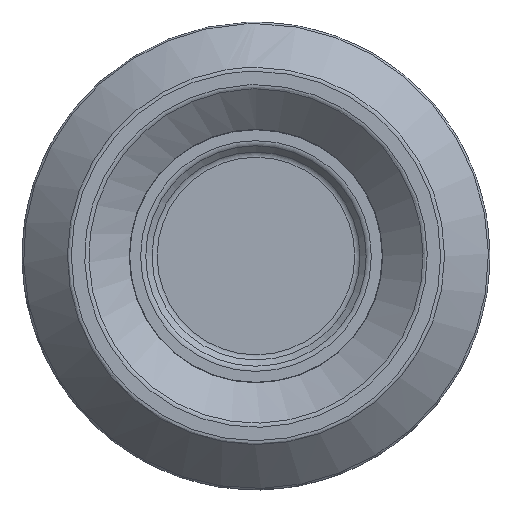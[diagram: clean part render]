
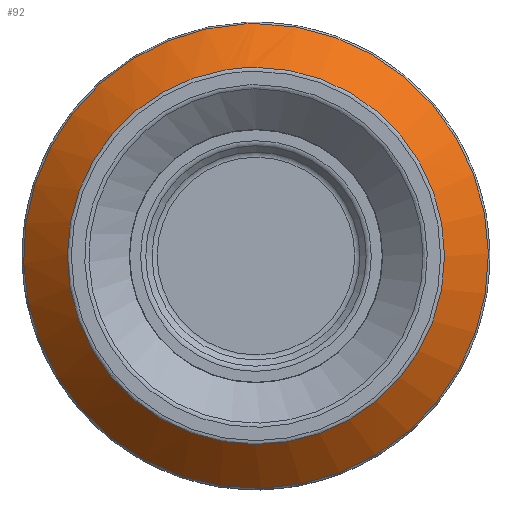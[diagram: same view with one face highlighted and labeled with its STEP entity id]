
A CAD part, left-side view. The second image highlights one B-rep face of the part: STEP entity #92.
In plain terms, the highlighted face is a revolution surface.
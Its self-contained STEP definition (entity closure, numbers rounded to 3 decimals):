
#47=SURFACE_OF_REVOLUTION('',#61,#55);
#55=AXIS1_PLACEMENT('',#474,#392);
#61=LINE('',#473,#65);
#65=VECTOR('',#391,9.13);
#92=ADVANCED_FACE('',(#126,#127),#47,.T.);
#126=FACE_BOUND('',#167,.T.);
#127=FACE_BOUND('',#168,.T.);
#167=EDGE_LOOP('',(#209));
#168=EDGE_LOOP('',(#210));
#209=ORIENTED_EDGE('',*,*,#262,.F.);
#210=ORIENTED_EDGE('',*,*,#261,.T.);
#240=VERTEX_POINT('',#468);
#241=VERTEX_POINT('',#472);
#261=EDGE_CURVE('',#240,#240,#283,.T.);
#262=EDGE_CURVE('',#241,#241,#285,.T.);
#283=CIRCLE('',#316,31.969);
#285=CIRCLE('',#318,25.934);
#316=AXIS2_PLACEMENT_3D('',#467,#384,#385);
#318=AXIS2_PLACEMENT_3D('',#471,#389,#390);
#384=DIRECTION('',(-1.,0.,0.));
#385=DIRECTION('',(0.,0.,1.));
#389=DIRECTION('',(-1.,0.,0.));
#390=DIRECTION('',(0.,0.,1.));
#391=DIRECTION('',(-0.646,-0.632,-0.428));
#392=DIRECTION('',(-1.,0.,0.));
#467=CARTESIAN_POINT('',(6.112,0.,0.));
#468=CARTESIAN_POINT('',(6.112,0.,31.969));
#471=CARTESIAN_POINT('',(0.214,0.,0.));
#472=CARTESIAN_POINT('',(0.214,0.,25.934));
#473=CARTESIAN_POINT('',(6.112,31.703,4.122));
#474=CARTESIAN_POINT('',(0.,0.,0.));
